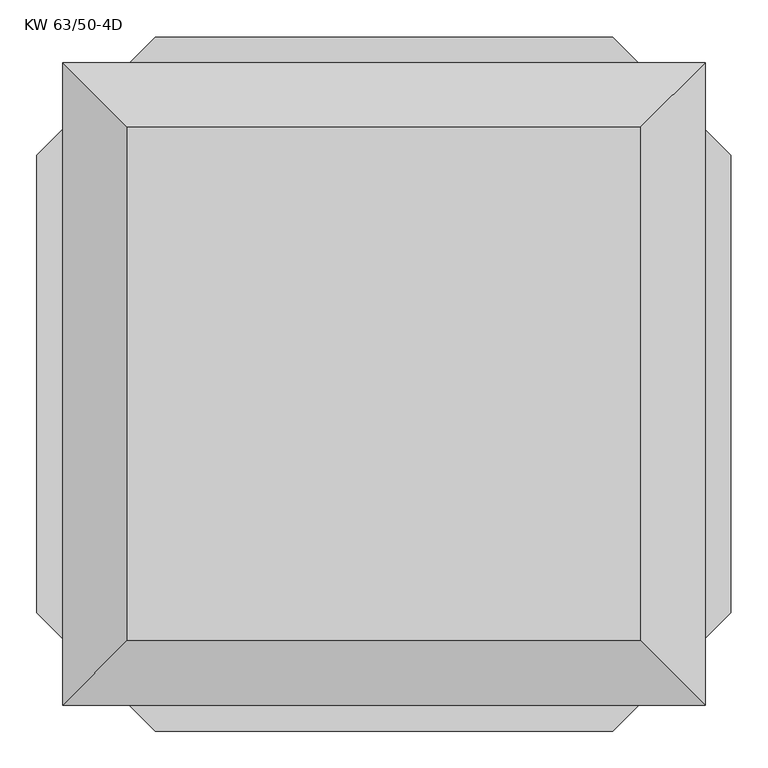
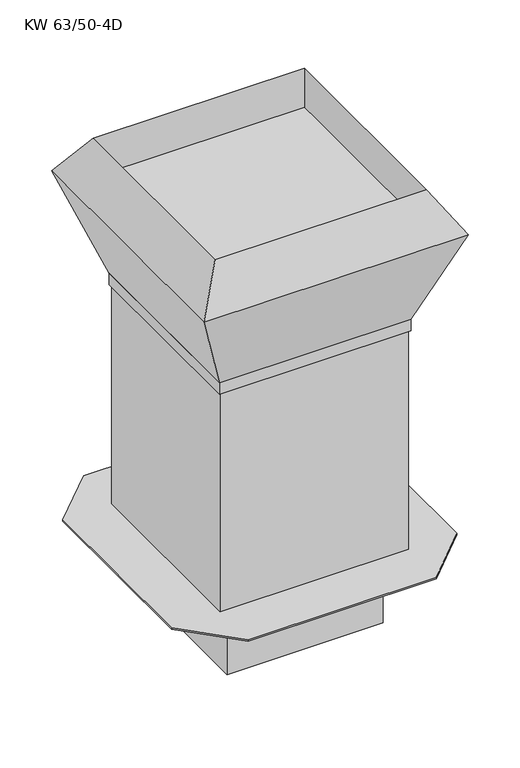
"""IFC4 building model written with IfcOpenShell, lengths in millimetres: proxy geometry, KORF_Вентилятор_Вытяжной_Крышный_KW : KW 63/50-4D."""

from ifc_helpers import new_model, si_unit, frame, origin, place, context, project, spatial, polyline, outline, extrude, faceted_brep, source, transform, mapped, element, save


def kw_63_50_4d_1f30ce77(model_context):
    return source(origin(), model_context, "Body", "SolidModel", [
        faceted_brep([(257.5, 280.0, -1.0), (257.5, 257.5, -1.0), (-257.5, 257.5, -1.0), (-257.5, 280.0, -1.0), (257.5, -257.5, -1.0), (257.5, -280.0, -1.0), (-257.5, -280.0, -1.0), (-257.5, -257.5, -1.0), (-257.5, 280.0, 0.0), (257.5, 280.0, 0.0), (-257.5, 257.5, 0.0), (257.5, 257.5, 0.0), (-257.5, -280.0, 0.0), (-257.5, -257.5, 0.0), (257.5, -280.0, 0.0), (257.5, -257.5, 0.0), (-281.5, 257.5, 0.0), (-281.5, -257.5, 0.0), (280.0, -257.5, 0.0), (280.0, 257.5, 0.0), (256.0, 256.0, 0.0), (256.0, -256.0, 0.0), (-256.0, -256.0, 0.0), (-256.0, 256.0, 0.0), (-281.5, 257.5, -1.0), (-281.5, -257.5, -1.0), (280.0, -257.5, -1.0), (280.0, 257.5, -1.0), (257.5, -257.5, -264.0), (-257.5, -257.5, -264.0), (-257.5, 257.5, -264.0), (257.5, 257.5, -264.0), (256.0, 256.0, -264.0), (-256.0, 256.0, -264.0), (-256.0, -256.0, -264.0), (256.0, -256.0, -264.0)], [[[0, 1, 2, 3]], [[4, 5, 6, 7]], [[0, 3, 8, 9]], [[3, 2, 10, 8]], [[1, 0, 9, 11]], [[7, 6, 12, 13]], [[6, 5, 14, 12]], [[5, 4, 15, 14]], [[16, 17, 13, 12, 14, 15, 18, 19, 11, 9, 8, 10], [20, 21, 22, 23]], [[24, 2, 7, 25]], [[26, 4, 1, 27]], [[17, 16, 24, 25]], [[13, 17, 25, 7]], [[16, 10, 2, 24]], [[19, 18, 26, 27]], [[11, 19, 27, 1]], [[18, 15, 4, 26]], [[28, 29, 30, 31], [32, 33, 34, 35]], [[28, 31, 1, 4]], [[31, 30, 2, 1]], [[30, 29, 7, 2]], [[29, 28, 4, 7]], [[21, 20, 32, 35]], [[22, 21, 35, 34]], [[23, 22, 34, 33]], [[20, 23, 33, 32]]]),
        faceted_brep([(310.0, 310.0, 807.0), (-310.0, 310.0, 807.0), (-310.0, -310.0, 807.0), (310.0, -310.0, 807.0), (310.0, 470.0, 0.0), (470.0, 310.0, 0.0), (470.0, -310.0, 0.0), (310.0, -470.0, 0.0), (-310.0, -470.0, 0.0), (-470.0, -310.0, 0.0), (-470.0, 310.0, 0.0), (-310.0, 470.0, 0.0), (310.0, 310.0, 5.0), (-310.0, 310.0, 5.0), (-310.0, -310.0, 5.0), (310.0, -310.0, 5.0), (310.0, 470.0, 5.0), (-310.0, 470.0, 5.0), (-470.0, 310.0, 5.0), (-470.0, -310.0, 5.0), (-310.0, -470.0, 5.0), (310.0, -470.0, 5.0), (470.0, -310.0, 5.0), (470.0, 310.0, 5.0)], [[[0, 1, 2, 3]], [[4, 5, 6, 7, 8, 9, 10, 11]], [[1, 0, 12, 13]], [[2, 1, 13, 14]], [[3, 2, 14, 15]], [[0, 3, 15, 12]], [[16, 17, 18, 19, 20, 21, 22, 23], [13, 12, 15, 14]], [[17, 16, 4, 11]], [[18, 17, 11, 10]], [[19, 18, 10, 9]], [[20, 19, 9, 8]], [[21, 20, 8, 7]], [[22, 21, 7, 6]], [[23, 22, 6, 5]], [[16, 23, 5, 4]]]),
        faceted_brep([(435.0, 435.0, 1132.0), (435.0, -435.0, 1132.0), (-435.0, -435.0, 1132.0), (-435.0, 435.0, 1132.0), (348.0, 348.0, 1132.0), (-348.0, 348.0, 1132.0), (-348.0, -348.0, 1132.0), (348.0, -348.0, 1132.0), (-348.0, 348.0, 1267.0), (348.0, 348.0, 1267.0), (-348.0, -348.0, 1267.0), (348.0, -348.0, 1267.0)], [[[0, 1, 2, 3], [4, 5, 6, 7]], [[0, 3, 8, 9]], [[3, 2, 10, 8]], [[2, 1, 11, 10]], [[1, 0, 9, 11]], [[8, 5, 4, 9]], [[5, 8, 10, 6]], [[6, 10, 11, 7]], [[9, 4, 7, 11]]]),
        faceted_brep([(435.0, 435.0, 1132.0), (-435.0, 435.0, 1132.0), (-435.0, -435.0, 1132.0), (435.0, -435.0, 1132.0), (315.0, 315.0, 807.0), (315.0, -315.0, 807.0), (-315.0, -315.0, 807.0), (-315.0, 315.0, 807.0)], [[[0, 1, 2, 3]], [[4, 5, 6, 7]], [[4, 7, 1, 0]], [[7, 6, 2, 1]], [[6, 5, 3, 2]], [[5, 4, 0, 3]]]),
        extrude(outline(polyline([(315.0, 315.0), (315.0, -315.0), (-315.0, -315.0), (-315.0, 315.0), (315.0, 315.0)]), holes=[polyline([(313.0, 313.0), (-313.0, 313.0), (-313.0, -313.0), (313.0, -313.0), (313.0, 313.0)])]), frame((0.0, 0.0, 767.0), z_axis=(0.0, 0.0, 1.0), x_axis=(1.0, 0.0, 0.0)), (0.0, 0.0, 1.0), 40.0),
    ])


if __name__ == "__main__":
    model = new_model("IFC4")
    model_context = context("Model", 3, world=origin())
    ifc_project = project(units=[si_unit("LENGTHUNIT", "METRE", prefix="MILLI")], contexts=[model_context])
    site = spatial("IfcSite", under=ifc_project)
    building = spatial("IfcBuilding", under=site)
    placement = place(None, origin())
    kw_63_50_4d_shape = kw_63_50_4d_1f30ce77(model_context)
    element("IfcBuildingElementProxy", 1, Name="KORF_Вентилятор_Вытяжной_Крышный_KW : KW 63/50-4D", ObjectType="KORF_Вентилятор_Вытяжной_Крышный_KW : KW 63/50-4D", at=placement, inside=building, context=model_context, shape_type="MappedRepresentation", body=[
        mapped(kw_63_50_4d_shape, transform((0.0, 0.0, 0.0), x_axis=(1.0, 0.0, 0.0), y_axis=(0.0, 1.0, 0.0), z_axis=(0.0, 0.0, 1.0))),
    ])
    save(model, "model.ifc")
